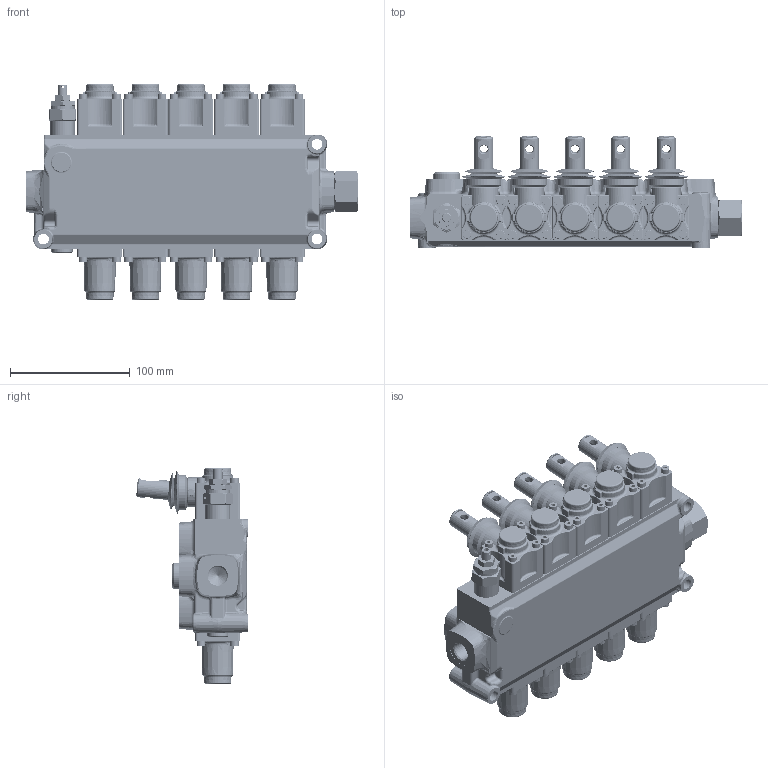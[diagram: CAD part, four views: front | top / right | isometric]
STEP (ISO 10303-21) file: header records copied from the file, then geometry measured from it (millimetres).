
FILE_DESCRIPTION (( 'STEP AP203' ), '1' );
FILE_NAME ('3D.step', '2026-06-09T08:53:32', ( 'Windows User' ), ( '' ), 'SwSTEP 2.0', 'SolidWorks 2025', '' );
FILE_SCHEMA (( 'CONFIG_CONTROL_DESIGN' ));
Length unit declared in the file: millimetre
Products named in the file (9): 03730M1_03-320283; 5KITVRQ2500-322451; 3XTAP722160-227901_3XTAP722160; 700035205000000-320139; 03610A1-A2_10-320319; 3D; 060002278399-320488; RDORIGINS-228505; Q25_00_P00-320093_RIJKERS-20260609105035_BSP38
Assembly tree (15 placements, depth 2):
  3D
    Q25_00_P00-320093_RIJKERS-20260609105035_BSP38
    700035205000000-320139
    5KITVRQ2500-322451
    3XTAP722160-227901_3XTAP722160
    03610A1-A2_10-320319  x5
    03730M1_03-320283  x5
    060002278399-320488
  RDORIGINS-228505
Bounding box: 276.69 x 92.94 x 179.5 mm (x, y, z)
Volume: 1202519.3 mm3; surface area: 307705.7 mm2
Topology: 34 solids, 96 shells, 4621 faces, 10819 edges, 6445 vertices
Faces by surface type: cylinder 1227, plane 1122, torus 863, cone 703, bspline 607, sphere 99
Entity records: 90880 total; most frequent: CARTESIAN_POINT 33609, DIRECTION 11973, ORIENTED_EDGE 11776, EDGE_CURVE 5890, AXIS2_PLACEMENT_3D 5098, VERTEX_POINT 3565, CIRCLE 2941, EDGE_LOOP 2747
